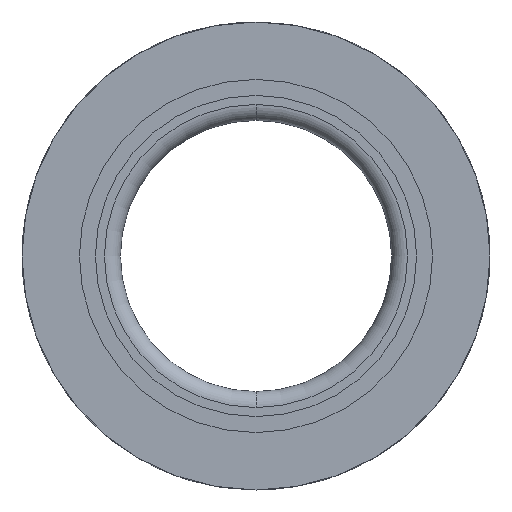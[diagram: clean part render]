
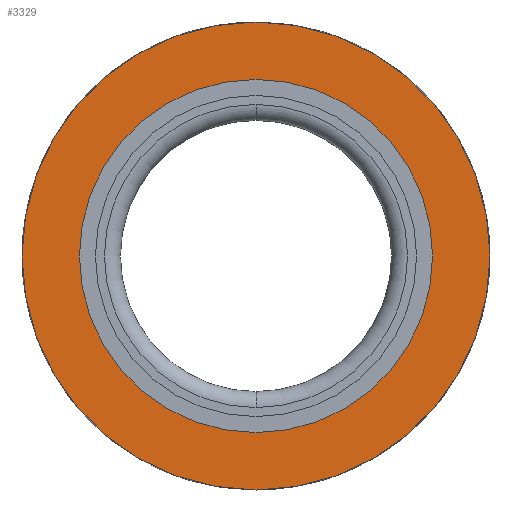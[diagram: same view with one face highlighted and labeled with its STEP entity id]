
A CAD part, front view. The second image highlights one B-rep face of the part: STEP entity #3329.
In plain terms, the highlighted planar face has unit normal (0, -1, 0).
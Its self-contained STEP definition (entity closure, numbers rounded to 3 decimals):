
#55 = DIRECTION ( 'NONE',  ( 0., 0., -1. ) ) ;
#416 = AXIS2_PLACEMENT_3D ( 'NONE', #5534, #6743, #55 ) ;
#869 = VERTEX_POINT ( 'NONE', #2267 ) ;
#1036 = DIRECTION ( 'NONE',  ( 0., -1., 0. ) ) ;
#1143 = ORIENTED_EDGE ( 'NONE', *, *, #3443, .F. ) ;
#1190 = ORIENTED_EDGE ( 'NONE', *, *, #2474, .T. ) ;
#1239 = CIRCLE ( 'NONE', #416, 22. ) ;
#1265 = EDGE_LOOP ( 'NONE', ( #1143, #5399 ) ) ;
#1442 = PLANE ( 'NONE',  #7240 ) ;
#1902 = EDGE_LOOP ( 'NONE', ( #2870, #1190 ) ) ;
#2096 = CIRCLE ( 'NONE', #6954, 15. ) ;
#2104 = AXIS2_PLACEMENT_3D ( 'NONE', #6087, #1036, #2259 ) ;
#2259 = DIRECTION ( 'NONE',  ( 0., 0., -1. ) ) ;
#2267 = CARTESIAN_POINT ( 'NONE',  ( 94202.585, 15450.07, -22. ) ) ;
#2329 = CARTESIAN_POINT ( 'NONE',  ( 94202.585, 15450.07, 0. ) ) ;
#2474 = EDGE_CURVE ( 'NONE', #6689, #869, #4624, .T. ) ;
#2860 = DIRECTION ( 'NONE',  ( 0., 0., -1. ) ) ;
#2870 = ORIENTED_EDGE ( 'NONE', *, *, #6346, .T. ) ;
#2950 = DIRECTION ( 'NONE',  ( 0., -1., 0. ) ) ;
#3180 = DIRECTION ( 'NONE',  ( 0., 0., -1. ) ) ;
#3329 = ADVANCED_FACE ( 'NONE', ( #4100, #4874 ), #1442, .F. ) ;
#3443 = EDGE_CURVE ( 'NONE', #5911, #5107, #2096, .T. ) ;
#3660 = AXIS2_PLACEMENT_3D ( 'NONE', #2329, #2950, #2860 ) ;
#3671 = CARTESIAN_POINT ( 'NONE',  ( 94202.585, 15450.07, -15. ) ) ;
#4100 = FACE_BOUND ( 'NONE', #1265, .T. ) ;
#4624 = CIRCLE ( 'NONE', #3660, 22. ) ;
#4712 = CARTESIAN_POINT ( 'NONE',  ( 94202.585, 15450.07, 15. ) ) ;
#4813 = DIRECTION ( 'NONE',  ( 0., 1., 0. ) ) ;
#4874 = FACE_OUTER_BOUND ( 'NONE', #1902, .T. ) ;
#5107 = VERTEX_POINT ( 'NONE', #4712 ) ;
#5374 = DIRECTION ( 'NONE',  ( 0., 0., 1. ) ) ;
#5396 = CARTESIAN_POINT ( 'NONE',  ( 94202.585, 15450.07, 0. ) ) ;
#5399 = ORIENTED_EDGE ( 'NONE', *, *, #7110, .F. ) ;
#5534 = CARTESIAN_POINT ( 'NONE',  ( 94202.585, 15450.07, 0. ) ) ;
#5901 = CARTESIAN_POINT ( 'NONE',  ( 94180.585, 15450.07, 0. ) ) ;
#5911 = VERTEX_POINT ( 'NONE', #3671 ) ;
#5966 = DIRECTION ( 'NONE',  ( 0., -1., 0. ) ) ;
#6087 = CARTESIAN_POINT ( 'NONE',  ( 94202.585, 15450.07, 0. ) ) ;
#6346 = EDGE_CURVE ( 'NONE', #869, #6689, #1239, .T. ) ;
#6368 = CARTESIAN_POINT ( 'NONE',  ( 94202.585, 15450.07, 22. ) ) ;
#6554 = CIRCLE ( 'NONE', #2104, 15. ) ;
#6689 = VERTEX_POINT ( 'NONE', #6368 ) ;
#6743 = DIRECTION ( 'NONE',  ( 0., -1., 0. ) ) ;
#6954 = AXIS2_PLACEMENT_3D ( 'NONE', #5396, #5966, #3180 ) ;
#7110 = EDGE_CURVE ( 'NONE', #5107, #5911, #6554, .T. ) ;
#7240 = AXIS2_PLACEMENT_3D ( 'NONE', #5901, #4813, #5374 ) ;
